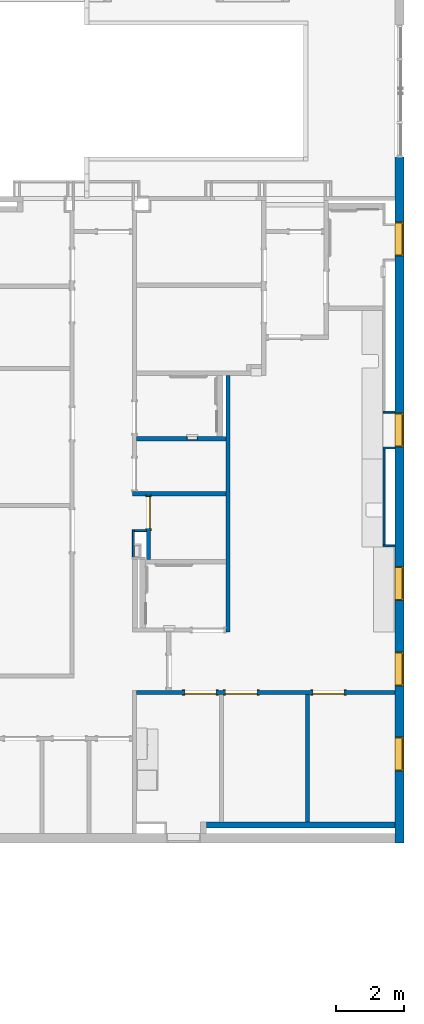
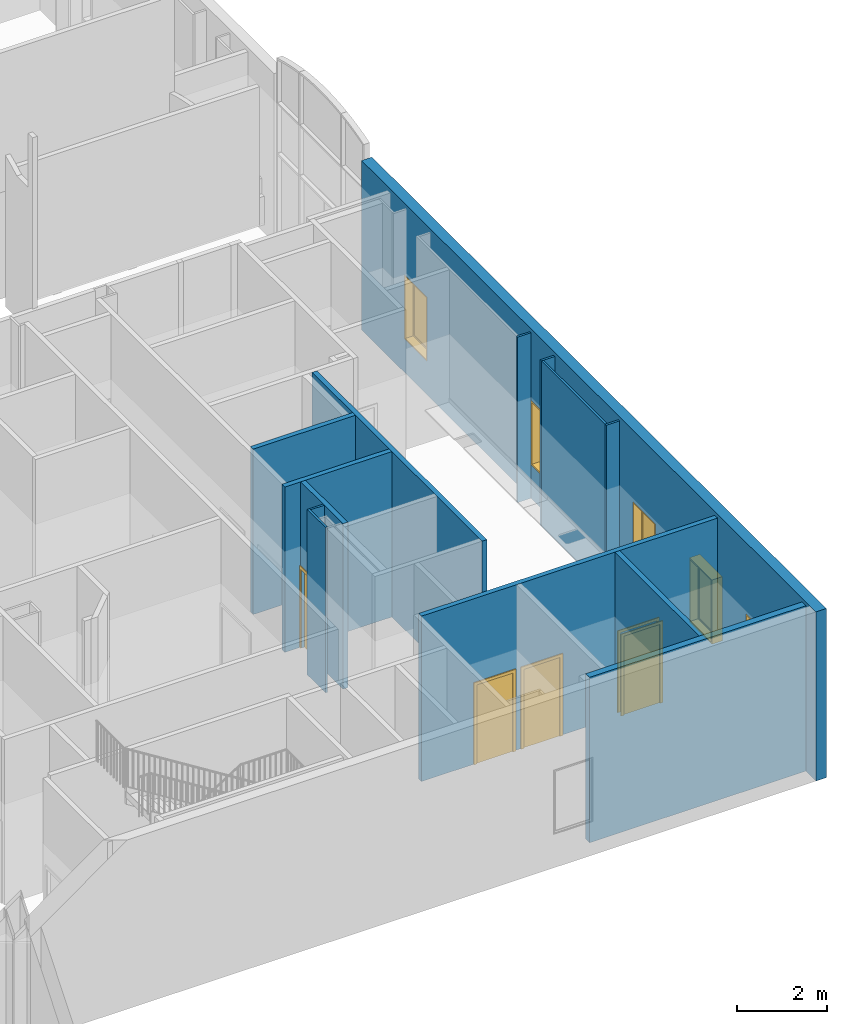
# One storey, part 25 of 87: 14 walls, 5 windows, 4 doors, 10 openings.
"""IFC2X3 building model written with IfcOpenShell, lengths in metres."""

from ifc_helpers import new_model, entity, si_unit, converted_unit, frame, frame_2d, origin, origin_2d_with_axis, place, context, project, spatial, polyline, rectangle, outline, extrude, source, transform, mapped, material, layer, layer_set, layer_usage, type_object, type_shapes, element, fill, save


model = new_model("IFC2X3")

# Units and contexts
model_context = context("Model", 3, precision=1e-09, world=origin())
plan_context = context("Plan", 3, precision=1e-09, world=origin())
ifc_project = project(units=[si_unit("LENGTHUNIT", "METRE"), si_unit("AREAUNIT", "SQUARE_METRE"), si_unit("VOLUMEUNIT", "CUBIC_METRE"), converted_unit("PLANEANGLEUNIT", "DEGREE", entity("IfcRatioMeasure", 0.01745329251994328), si_unit("PLANEANGLEUNIT", "RADIAN"), dimensions=[0, 0, 0, 0, 0, 0, 0]), si_unit("TIMEUNIT", "SECOND")], contexts=[model_context, plan_context])

# Site, building, storey
site_placement = place(None, origin())
site = spatial("IfcSite", under=ifc_project, at=site_placement, Name="Default", CompositionType="ELEMENT")
building_placement = place(site_placement, origin())
building = spatial("IfcBuilding", under=site, at=building_placement, CompositionType="ELEMENT")
storey_placement = place(building_placement, origin())
storey = spatial("IfcBuildingStorey", under=building, at=storey_placement, Name="First Floor", CompositionType="ELEMENT", Elevation=-3.531500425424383e-13)

# Walls
ifc_material_1 = material(Name="Metal - Stud Layer")
ifc_layer_1 = layer(ifc_material_1, 0.038)
ifc_material_2 = material(Name="Plasterboard")
ifc_layer_2 = layer(ifc_material_2, 0.016)
ifc_layer_set_1 = layer_set([ifc_layer_1, ifc_layer_2], Name="Basic Wall:Interior - Furring (38 mm Stud)")
ifc_layer_usage_1 = layer_usage(ifc_layer_set_1, "AXIS2", "POSITIVE", -0.027)
wall_1_placement = place(storey_placement, frame((0.1129999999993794, 22.28699999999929, 0.0), z_axis=(0.0, 0.0, 1.0), x_axis=(-1.0, 0.0, 0.0)))
element("IfcWallStandardCase", 1, at=wall_1_placement, inside=storey, material=ifc_layer_usage_1, Name="Basic Wall:Interior - Furring (38 mm Stud)", ObjectType="Basic Wall:Interior - Furring (38 mm Stud)", context=model_context, shape_type="SweptSolid", body=[
    extrude(rectangle(XDim=0.3429999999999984, YDim=0.05399999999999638, at=frame_2d((0.1714999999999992, 0.0), x_axis=(-1.0, 0.0))), origin(), (0.0, 0.0, 1.0), 4.468000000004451),
])
ifc_layer_3 = layer(ifc_material_2, 0.016)
ifc_layer_4 = layer(ifc_material_1, 0.092)
ifc_layer_5 = layer(ifc_material_2, 0.016)
ifc_layer_set_2 = layer_set([ifc_layer_3, ifc_layer_4, ifc_layer_5], Name="Basic Wall:Interior - Partition (92mm Stud)")
ifc_layer_usage_2 = layer_usage(ifc_layer_set_2, "AXIS2", "NEGATIVE", 0.062)
wall_2_placement = place(storey_placement, frame((-4.781975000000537, 23.35999999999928, 0.0), z_axis=(0.0, 0.0, 1.0), x_axis=(0.0, -1.0, 0.0)))
element("IfcWallStandardCase", 2, at=wall_2_placement, inside=storey, material=ifc_layer_usage_2, Name="Basic Wall:Interior - Partition (92mm Stud)", ObjectType="Basic Wall:Interior - Partition (92mm Stud)", context=model_context, shape_type="SweptSolid", body=[
    extrude(rectangle(XDim=7.52000000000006, YDim=0.124, at=frame_2d((3.76000000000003, 0.0), x_axis=(-1.0, 0.0))), origin(), (0.0, 0.0, 1.0), 4.46800000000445),
])

# Wall, openings, doors
ifc_layer_usage_3 = layer_usage(ifc_layer_set_2, "AXIS2", "NEGATIVE", 0.062)
wall_3_placement = place(storey_placement, frame((-7.455975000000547, 14.06799999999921, 0.0)))
wall_3 = element("IfcWallStandardCase", 3, at=wall_3_placement, inside=storey, material=ifc_layer_usage_3, Name="Basic Wall:Interior - Partition (92mm Stud)", ObjectType="Basic Wall:Interior - Partition (92mm Stud)", context=model_context, shape_type="SweptSolid", body=[
    extrude(rectangle(XDim=7.568974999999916, YDim=0.1240000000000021, at=frame_2d((3.784487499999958, 0.0), x_axis=(-1.0, 0.0))), origin(), (0.0, 0.0, 1.0), 4.468000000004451),
])
opening_1_placement = place(wall_3_placement, frame((6.081000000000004, 0.06199999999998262, 0.0)))
opening_1 = element("IfcOpeningElement", 4, at=opening_1_placement, cuts=wall_3, Name="M_Single-Flush:0915 x 2134mm:0915 x 2134mm:1", ObjectType="Opening", context=model_context, shape_type="SweptSolid", body=[
    extrude(rectangle(XDim=0.9149999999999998, YDim=2.134, at=frame_2d((1.067, 0.4575), x_axis=(0.0, 1.0))), frame((0.0, 0.0, 0.0), z_axis=(0.0, -1.0, 0.0), x_axis=(0.0, 0.0, 1.0)), (0.0, 0.0, 1.0), 0.124),
])
opening_2_placement = place(wall_3_placement, frame((3.525000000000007, 0.06199999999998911, 0.0)))
opening_2 = element("IfcOpeningElement", 5, at=opening_2_placement, cuts=wall_3, Name="M_Single-Flush:0915 x 2134mm:0915 x 2134mm:1", ObjectType="Opening", context=model_context, shape_type="SweptSolid", body=[
    extrude(rectangle(XDim=0.9149999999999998, YDim=2.134, at=frame_2d((1.067, 0.4574999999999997), x_axis=(0.0, 1.0))), frame((0.0, 0.0, 0.0), z_axis=(0.0, -1.0, 0.0), x_axis=(0.0, 0.0, 1.0)), (0.0, 0.0, 1.0), 0.124),
])
opening_3_placement = place(wall_3_placement, frame((2.325999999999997, 0.06199999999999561, 0.0)))
opening_3 = element("IfcOpeningElement", 6, at=opening_3_placement, cuts=wall_3, Name="M_Single-Flush:0915 x 2134mm:0915 x 2134mm:1", ObjectType="Opening", context=model_context, shape_type="SweptSolid", body=[
    extrude(rectangle(XDim=0.9150000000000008, YDim=2.134, at=frame_2d((1.067, 0.4575000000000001), x_axis=(0.0, -1.0))), frame((0.0, 0.0, 0.0), z_axis=(0.0, -1.0, 0.0), x_axis=(0.0, 0.0, 1.0)), (0.0, 0.0, 1.0), 0.124),
])
door_style_1 = type_object("IfcDoorStyle", Name="0915 x 2134mm", ConstructionType="NOTDEFINED", OperationType="SINGLE_SWING_RIGHT", ParameterTakesPrecedence=False, Sizeable=False)
shared_shape_1 = source(origin(), model_context, "Body", "SweptSolid", [
    extrude(outline(polyline([(-0.5335, -1.123999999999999), (0.5334999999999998, -1.123999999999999), (0.5334999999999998, 1.086), (0.4574999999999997, 1.086), (0.4574999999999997, -1.048000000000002), (-0.4574999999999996, -1.048000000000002), (-0.4574999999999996, 1.086), (-0.5335, 1.086), (-0.5335, -1.123999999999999)])), frame((0.4575000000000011, 0.1239999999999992, 1.086), z_axis=(0.0, 1.0, 0.0), x_axis=(1.0, 0.0, 0.0)), (0.0, 0.0, 1.0), 0.02499999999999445),
    extrude(outline(polyline([(-1.123999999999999, -0.5334999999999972), (1.085999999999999, -0.5334999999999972), (1.085999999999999, -0.4575000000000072), (-1.048, -0.4575000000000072), (-1.048, 0.4575000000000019), (1.085999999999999, 0.4575000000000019), (1.085999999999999, 0.5335000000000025), (-1.123999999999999, 0.5335000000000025), (-1.123999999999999, -0.5334999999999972)])), frame((0.4575000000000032, -0.02500000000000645, 1.085999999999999), z_axis=(0.0, 1.0, 0.0), x_axis=(0.0, 0.0, -1.0)), (0.0, 0.0, 1.0), 0.02500000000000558),
    extrude(rectangle(XDim=0.051, YDim=0.9149999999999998, at=origin_2d_with_axis()), frame((0.4575000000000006, 0.09849999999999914, 0.0), z_axis=(0.0, 0.0, 1.0), x_axis=(0.0, 1.0, 0.0)), (0.0, 0.0, 1.0), 2.133999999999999),
])
type_shapes(door_style_1, [shared_shape_1])
door_1_placement = place(opening_1_placement, frame((0.0, 0.0, 0.0), z_axis=(0.0, 0.0, 1.0), x_axis=(-1.0, 0.0, 0.0)))
door_1 = element("IfcDoor", 7, at=door_1_placement, inside=storey, type_object=door_style_1, Name="M_Single-Flush:0915 x 2134mm:0915 x 2134mm", ObjectType="0915 x 2134mm", OverallHeight=2.134, OverallWidth=0.9149999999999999, context=model_context, shape_type="MappedRepresentation", body=[
    mapped(shared_shape_1, transform((0.0, 0.0, 0.0), scale=1.0)),
])
fill(opening_1, door_1)
door_2_placement = place(opening_2_placement, frame((0.0, 0.0, 0.0), z_axis=(0.0, 0.0, 1.0), x_axis=(-1.0, 0.0, 0.0)))
door_2 = element("IfcDoor", 8, at=door_2_placement, inside=storey, type_object=door_style_1, Name="M_Single-Flush:0915 x 2134mm:0915 x 2134mm", ObjectType="0915 x 2134mm", OverallHeight=2.134, OverallWidth=0.9149999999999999, context=model_context, shape_type="MappedRepresentation", body=[
    mapped(shared_shape_1, transform((0.0, 0.0, 0.0), scale=1.0)),
])
fill(opening_2, door_2)
door_style_2 = type_object("IfcDoorStyle", Name="0915 x 2134mm", ConstructionType="NOTDEFINED", OperationType="SINGLE_SWING_LEFT", ParameterTakesPrecedence=False, Sizeable=False)
shared_shape_2 = source(origin(), model_context, "Body", "SweptSolid", [
    extrude(outline(polyline([(-0.5335, -1.123999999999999), (0.5334999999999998, -1.123999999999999), (0.5334999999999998, 1.086), (0.4574999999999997, 1.086), (0.4574999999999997, -1.048000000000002), (-0.4574999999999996, -1.048000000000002), (-0.4574999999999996, 1.086), (-0.5335, 1.086), (-0.5335, -1.123999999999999)])), frame((0.4575000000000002, 0.1489999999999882, 1.086), z_axis=(0.0, -1.0, 0.0), x_axis=(-1.0, 0.0, 0.0)), (0.0, 0.0, 1.0), 0.02499999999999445),
    extrude(outline(polyline([(-1.123999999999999, -0.5334999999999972), (1.085999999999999, -0.5334999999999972), (1.085999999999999, -0.4575000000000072), (-1.048, -0.4575000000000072), (-1.048, 0.4575000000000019), (1.085999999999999, 0.4575000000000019), (1.085999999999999, 0.5335000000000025), (-1.123999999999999, 0.5335000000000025), (-1.123999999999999, -0.5334999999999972)])), frame((0.4574999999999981, 0.0, 1.085999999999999), z_axis=(0.0, -1.0, 0.0), x_axis=(0.0, 0.0, -1.0)), (0.0, 0.0, 1.0), 0.02500000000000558),
    extrude(rectangle(XDim=0.9149999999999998, YDim=0.051, at=origin_2d_with_axis()), frame((0.4575000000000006, 0.09849999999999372, 0.0)), (0.0, 0.0, 1.0), 2.133999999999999),
])
type_shapes(door_style_2, [shared_shape_2])
door_3_placement = place(opening_3_placement, frame((0.0, 0.0, 0.0), z_axis=(0.0, 0.0, 1.0), x_axis=(-1.0, 0.0, 0.0)))
door_3 = element("IfcDoor", 9, at=door_3_placement, inside=storey, type_object=door_style_2, Name="M_Single-Flush:0915 x 2134mm:0915 x 2134mm", ObjectType="0915 x 2134mm", OverallHeight=2.134, OverallWidth=0.9149999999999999, context=model_context, shape_type="MappedRepresentation", body=[
    mapped(shared_shape_2, transform((0.0, 0.0, 0.0), scale=1.0)),
])
fill(opening_3, door_3)

# Walls
ifc_layer_6 = layer(ifc_material_1, 0.152)
ifc_layer_7 = layer(ifc_material_2, 0.016)
ifc_layer_set_3 = layer_set([ifc_layer_6, ifc_layer_7], Name="Basic Wall:Interior - Furring (152 mm Stud)")
ifc_layer_usage_4 = layer_usage(ifc_layer_set_3, "AXIS2", "POSITIVE", -0.08399999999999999)
wall_4_placement = place(storey_placement, frame((-5.41530308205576, 10.18599999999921, 0.0)))
element("IfcWallStandardCase", 10, at=wall_4_placement, inside=storey, material=ifc_layer_usage_4, Name="Basic Wall:Interior - Furring (152 mm Stud)", ObjectType="Basic Wall:Interior - Furring (152 mm Stud)", context=model_context, shape_type="SweptSolid", body=[
    extrude(rectangle(XDim=5.528303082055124, YDim=0.1680000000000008, at=frame_2d((2.764151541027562, 0.0), x_axis=(-1.0, 0.0))), origin(), (0.0, 0.0, 1.0), 4.468000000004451),
])
ifc_layer_usage_5 = layer_usage(ifc_layer_set_2, "AXIS2", "NEGATIVE", 0.062)
wall_5_placement = place(storey_placement, frame((-2.45197500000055, 14.0059999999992, 0.0), z_axis=(0.0, 0.0, 1.0), x_axis=(0.0, -1.0, 0.0)))
element("IfcWallStandardCase", 11, at=wall_5_placement, inside=storey, material=ifc_layer_usage_5, Name="Basic Wall:Interior - Partition (92mm Stud)", ObjectType="Basic Wall:Interior - Partition (92mm Stud)", context=model_context, shape_type="SweptSolid", body=[
    extrude(rectangle(XDim=3.735999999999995, YDim=0.124, at=frame_2d((1.867999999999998, 0.0), x_axis=(-1.0, 0.0))), origin(), (0.0, 0.0, 1.0), 4.46800000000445),
])
ifc_layer_usage_6 = layer_usage(ifc_layer_set_1, "AXIS2", "POSITIVE", -0.027)
wall_6_placement = place(storey_placement, frame((-7.55297500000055, 18.0299999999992, 0.0), z_axis=(0.0, 0.0, 1.0), x_axis=(0.0, 1.0, 0.0)))
element("IfcWallStandardCase", 12, at=wall_6_placement, inside=storey, material=ifc_layer_usage_6, Name="Basic Wall:Interior - Furring (38 mm Stud)", ObjectType="Basic Wall:Interior - Furring (38 mm Stud)", context=model_context, shape_type="SweptSolid", body=[
    extrude(rectangle(XDim=0.8100000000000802, YDim=0.05400000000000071, at=frame_2d((0.4050000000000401, 0.0), x_axis=(-1.0, 0.0))), origin(), (0.0, 0.0, 1.0), 4.46800000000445),
])
ifc_layer_usage_7 = layer_usage(ifc_layer_set_1, "AXIS2", "POSITIVE", -0.027)
wall_7_placement = place(storey_placement, frame((-7.525975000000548, 18.81299999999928, 0.0)))
element("IfcWallStandardCase", 13, at=wall_7_placement, inside=storey, material=ifc_layer_usage_7, Name="Basic Wall:Interior - Furring (38 mm Stud)", ObjectType="Basic Wall:Interior - Furring (38 mm Stud)", context=model_context, shape_type="SweptSolid", body=[
    extrude(rectangle(XDim=0.3519749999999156, YDim=0.05400000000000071, at=frame_2d((0.1759874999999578, 0.0), x_axis=(-1.0, 0.0))), origin(), (0.0, 0.0, 1.0), 4.46800000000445),
])

# Wall, opening, door
ifc_layer_usage_8 = layer_usage(ifc_layer_set_2, "AXIS2", "NEGATIVE", 0.062)
wall_8_placement = place(storey_placement, frame((-7.112000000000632, 19.82999999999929, 0.0), z_axis=(0.0, 0.0, 1.0), x_axis=(0.0, -1.0, 0.0)))
wall_8 = element("IfcWallStandardCase", 14, at=wall_8_placement, inside=storey, material=ifc_layer_usage_8, Name="Basic Wall:Interior - Partition (92mm Stud)", ObjectType="Basic Wall:Interior - Partition (92mm Stud)", context=model_context, shape_type="SweptSolid", body=[
    extrude(rectangle(XDim=1.870000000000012, YDim=0.124, at=frame_2d((0.9350000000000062, 0.0), x_axis=(-1.0, 0.0))), origin(), (0.0, 0.0, 1.0), 4.46800000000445),
])
opening_4_placement = place(wall_8_placement, frame((0.03750000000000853, -0.06200000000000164, 0.0)))
opening_4 = element("IfcOpeningElement", 15, at=opening_4_placement, cuts=wall_8, Name="M_Single-Flush:0915 x 2134mm:0915 x 2134mm:1", ObjectType="Opening", context=model_context, shape_type="SweptSolid", body=[
    extrude(rectangle(XDim=0.9149999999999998, YDim=2.134, at=frame_2d((1.067, 0.4575000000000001), x_axis=(0.0, -1.0))), frame((0.0, 0.0, 0.0), z_axis=(0.0, 1.0, 0.0), x_axis=(0.0, 0.0, 1.0)), (0.0, 0.0, 1.0), 0.124),
])
door_4_placement = place(opening_4_placement, origin())
door_4 = element("IfcDoor", 16, at=door_4_placement, inside=storey, type_object=door_style_2, Name="M_Single-Flush:0915 x 2134mm:0915 x 2134mm", ObjectType="0915 x 2134mm", OverallHeight=2.134, OverallWidth=0.9149999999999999, context=model_context, shape_type="MappedRepresentation", body=[
    mapped(shared_shape_2, transform((0.0, 0.0, 0.0), scale=1.0)),
])
fill(opening_4, door_4)

# Wall
ifc_layer_usage_9 = layer_usage(ifc_layer_set_2, "AXIS2", "NEGATIVE", 0.062)
wall_9_placement = place(storey_placement, frame((-4.843975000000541, 19.89199999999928, 0.0), z_axis=(0.0, 0.0, 1.0), x_axis=(-1.0, 0.0, 0.0)))
element("IfcWallStandardCase", 17, at=wall_9_placement, inside=storey, material=ifc_layer_usage_9, Name="Basic Wall:Interior - Partition (92mm Stud)", ObjectType="Basic Wall:Interior - Partition (92mm Stud)", context=model_context, shape_type="SweptSolid", body=[
    extrude(rectangle(XDim=2.736000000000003, YDim=0.1239999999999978, at=frame_2d((1.368000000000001, 0.0), x_axis=(-1.0, 0.0))), origin(), (0.0, 0.0, 1.0), 4.46800000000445),
])

# Wall, opening
ifc_layer_usage_10 = layer_usage(ifc_layer_set_2, "AXIS2", "NEGATIVE", 0.062)
wall_10_placement = place(storey_placement, frame((-7.455975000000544, 21.50799999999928, 0.0)))
wall_10 = element("IfcWallStandardCase", 18, at=wall_10_placement, inside=storey, material=ifc_layer_usage_10, Name="Basic Wall:Interior - Partition (92mm Stud)", ObjectType="Basic Wall:Interior - Partition (92mm Stud)", context=model_context, shape_type="SweptSolid", body=[
    extrude(rectangle(XDim=2.612000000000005, YDim=0.1239999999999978, at=frame_2d((1.306000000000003, 0.0), x_axis=(-1.0, 0.0))), origin(), (0.0, 0.0, 1.0), 4.46800000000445),
])
opening_5_placement = place(wall_10_placement, origin())
element("IfcOpeningElement", 19, at=opening_5_placement, cuts=wall_10, ObjectType="Opening", context=model_context, shape_type="SweptSolid", body=[
    extrude(rectangle(XDim=1.362075, YDim=0.2984500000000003, at=frame_2d((0.0, 0.0), x_axis=(0.0, 1.0))), frame((1.630900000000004, -0.02690000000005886, 1.041399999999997), z_axis=(0.0, 1.0, 0.0), x_axis=(1.0, 0.0, 0.0)), (0.0, 0.0, 1.0), 0.1524000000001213),
])

# Walls
ifc_layer_usage_11 = layer_usage(ifc_layer_set_1, "AXIS2", "POSITIVE", -0.027)
wall_11_placement = place(storey_placement, frame((0.1129999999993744, 18.36499999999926, 0.0), z_axis=(0.0, 0.0, 1.0), x_axis=(-1.0, 0.0, 0.0)))
element("IfcWallStandardCase", 20, at=wall_11_placement, inside=storey, material=ifc_layer_usage_11, Name="Basic Wall:Interior - Furring (38 mm Stud)", ObjectType="Basic Wall:Interior - Furring (38 mm Stud)", context=model_context, shape_type="SweptSolid", body=[
    extrude(rectangle(XDim=0.3429999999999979, YDim=0.05400000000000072, at=frame_2d((0.171499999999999, 0.0), x_axis=(-1.0, 0.0))), origin(), (0.0, 0.0, 1.0), 4.468000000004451),
])
ifc_layer_usage_12 = layer_usage(ifc_layer_set_1, "AXIS2", "POSITIVE", -0.027)
wall_12_placement = place(storey_placement, frame((-0.2030000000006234, 18.39199999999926, 0.0), z_axis=(0.0, 0.0, 1.0), x_axis=(0.0, 1.0, 0.0)))
element("IfcWallStandardCase", 21, at=wall_12_placement, inside=storey, material=ifc_layer_usage_12, Name="Basic Wall:Interior - Furring (38 mm Stud)", ObjectType="Basic Wall:Interior - Furring (38 mm Stud)", context=model_context, shape_type="SweptSolid", body=[
    extrude(rectangle(XDim=2.814000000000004, YDim=0.05399999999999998, at=frame_2d((1.407000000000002, 0.0), x_axis=(-1.0, 0.0))), origin(), (0.0, 0.0, 1.0), 4.46800000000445),
])
ifc_layer_usage_13 = layer_usage(ifc_layer_set_1, "AXIS2", "POSITIVE", -0.027)
wall_13_placement = place(storey_placement, frame((-0.2300000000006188, 21.23299999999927, 0.0)))
element("IfcWallStandardCase", 22, at=wall_13_placement, inside=storey, material=ifc_layer_usage_13, Name="Basic Wall:Interior - Furring (38 mm Stud)", ObjectType="Basic Wall:Interior - Furring (38 mm Stud)", context=model_context, shape_type="SweptSolid", body=[
    extrude(rectangle(XDim=0.3429999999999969, YDim=0.05399999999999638, at=frame_2d((0.1714999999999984, 0.0), x_axis=(-1.0, 0.0))), origin(), (0.0, 0.0, 1.0), 4.46800000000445),
])

# Wall, openings, windows
ifc_material_3 = material(Name="Insulation - Insulated Panel")
ifc_layer_8 = layer(ifc_material_3, 0.042)
ifc_material_4 = material(Name="Metal - Firring")
ifc_layer_9 = layer(ifc_material_4, 0.038)
ifc_material_5 = material(Name="Wood - Sheathing - plywood")
ifc_layer_10 = layer(ifc_material_5, 0.019)
ifc_layer_11 = layer(ifc_material_1, 0.152)
ifc_layer_12 = layer(ifc_material_2, 0.016)
ifc_layer_set_4 = layer_set([ifc_layer_8, ifc_layer_9, ifc_layer_10, ifc_layer_11, ifc_layer_12], Name="Basic Wall:Exterior - Insul Panel on Mtl. Stud")
ifc_layer_usage_14 = layer_usage(ifc_layer_set_4, "AXIS2", "NEGATIVE", 0.1335)
wall_14_placement = place(storey_placement, frame((0.246499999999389, 29.75999999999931, 0.0), z_axis=(0.0, 0.0, 1.0), x_axis=(0.0, -1.0, 0.0)))
wall_14 = element("IfcWallStandardCase", 23, at=wall_14_placement, inside=storey, material=ifc_layer_usage_14, Name="Basic Wall:Exterior - Insul Panel on Mtl. Stud", ObjectType="Basic Wall:Exterior - Insul Panel on Mtl. Stud", context=model_context, shape_type="SweptSolid", body=[
    extrude(rectangle(XDim=20.10000000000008, YDim=0.267, at=frame_2d((10.05000000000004, 0.0), x_axis=(-1.0, 0.0))), origin(), (0.0, 0.0, 1.0), 4.570000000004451),
])
opening_6_placement = place(wall_14_placement, frame((1.900938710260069, -0.1335000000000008, 0.9049999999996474)))
opening_6 = element("IfcOpeningElement", 24, at=opening_6_placement, cuts=wall_14, Name=":1", ObjectType="Opening", context=model_context, shape_type="SweptSolid", body=[
    extrude(rectangle(XDim=1.734999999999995, YDim=0.9999999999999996, at=frame_2d((0.8674999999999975, 0.4999999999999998), x_axis=(1.0, 0.0))), frame((0.0, 0.0, 0.0), z_axis=(0.0, 1.0, 0.0), x_axis=(0.0, 0.0, 1.0)), (0.0, 0.0, 1.0), 0.267),
])
opening_7_placement = place(wall_14_placement, frame((7.500000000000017, -0.133500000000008, 0.9049999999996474)))
opening_7 = element("IfcOpeningElement", 25, at=opening_7_placement, cuts=wall_14, Name=":1", ObjectType="Opening", context=model_context, shape_type="SweptSolid", body=[
    extrude(rectangle(XDim=1.734999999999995, YDim=0.9999999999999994, at=frame_2d((0.8674999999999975, 0.5000000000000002), x_axis=(1.0, 0.0))), frame((0.0, 0.0, 0.0), z_axis=(0.0, 1.0, 0.0), x_axis=(0.0, 0.0, 1.0)), (0.0, 0.0, 1.0), 0.267),
])
opening_8_placement = place(wall_14_placement, frame((12.0, -0.1335000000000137, 0.9049999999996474)))
opening_8 = element("IfcOpeningElement", 26, at=opening_8_placement, cuts=wall_14, Name=":1", ObjectType="Opening", context=model_context, shape_type="SweptSolid", body=[
    extrude(rectangle(XDim=1.734999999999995, YDim=0.9999999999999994, at=frame_2d((0.8674999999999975, 0.5000000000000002), x_axis=(1.0, 0.0))), frame((0.0, 0.0, 0.0), z_axis=(0.0, 1.0, 0.0), x_axis=(0.0, 0.0, 1.0)), (0.0, 0.0, 1.0), 0.267),
])
opening_9_placement = place(wall_14_placement, frame((14.50000000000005, -0.1335000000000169, 0.9049999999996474)))
opening_9 = element("IfcOpeningElement", 27, at=opening_9_placement, cuts=wall_14, Name=":1", ObjectType="Opening", context=model_context, shape_type="SweptSolid", body=[
    extrude(rectangle(XDim=1.734999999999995, YDim=0.9999999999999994, at=frame_2d((0.8674999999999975, 0.5000000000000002), x_axis=(1.0, 0.0))), frame((0.0, 0.0, 0.0), z_axis=(0.0, 1.0, 0.0), x_axis=(0.0, 0.0, 1.0)), (0.0, 0.0, 1.0), 0.267),
])
opening_10_placement = place(wall_14_placement, frame((17.0, -0.1335000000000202, 0.9049999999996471)))
opening_10 = element("IfcOpeningElement", 28, at=opening_10_placement, cuts=wall_14, Name=":1", ObjectType="Opening", context=model_context, shape_type="SweptSolid", body=[
    extrude(rectangle(XDim=1.734999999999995, YDim=0.9999999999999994, at=frame_2d((0.8674999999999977, 0.5000000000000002), x_axis=(1.0, 0.0))), frame((0.0, 0.0, 0.0), z_axis=(0.0, 1.0, 0.0), x_axis=(0.0, 0.0, 1.0)), (0.0, 0.0, 1.0), 0.267),
])
window_style = type_object("IfcWindowStyle", Name="1735 x 1000mm", ConstructionType="NOTDEFINED", OperationType="NOTDEFINED", ParameterTakesPrecedence=False, Sizeable=False)
shared_shape_3 = source(origin(), model_context, "Body", "SweptSolid", [
    extrude(rectangle(XDim=0.012, YDim=0.873999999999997, at=origin_2d_with_axis()), frame((0.5000000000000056, 0.2259999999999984, 0.06299999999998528), z_axis=(0.0, 0.0, 1.0), x_axis=(0.0, -1.0, 0.0)), (0.0, 0.0, 1.0), 1.609000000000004),
    extrude(outline(polyline([(-0.4809999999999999, -0.8485000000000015), (0.4809999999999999, -0.8485000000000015), (0.4809999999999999, 0.8485000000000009), (-0.4809999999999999, 0.8485000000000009), (-0.4809999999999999, -0.8485000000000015)]), holes=[polyline([(-0.4369999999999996, -0.8045000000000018), (-0.4369999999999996, 0.8045000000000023), (0.4369999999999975, 0.8045000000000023), (0.4369999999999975, -0.8045000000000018), (-0.4369999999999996, -0.8045000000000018)])]), frame((0.5000000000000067, 0.203999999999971, 0.8674999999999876), z_axis=(0.0, 1.0, 0.0), x_axis=(1.0, 0.0, 0.0)), (0.0, 0.0, 1.0), 0.04400000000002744),
    extrude(outline(polyline([(-0.4999999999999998, -0.8674999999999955), (0.4999999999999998, -0.8674999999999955), (0.4999999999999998, 0.8674999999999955), (-0.4999999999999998, 0.8674999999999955), (-0.4999999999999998, -0.8674999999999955)]), holes=[polyline([(-0.4810000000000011, -0.8484999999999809), (-0.4810000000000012, 0.8485000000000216), (0.4809999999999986, 0.8485000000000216), (0.4809999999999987, -0.8484999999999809), (-0.4810000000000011, -0.8484999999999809)])]), frame((0.500000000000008, 0.203999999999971, 0.8675000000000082), z_axis=(0.0, 1.0, 0.0), x_axis=(1.0, 0.0, 0.0)), (0.0, 0.0, 1.0), 0.06300000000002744),
    extrude(outline(polyline([(-0.5000000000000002, -0.867499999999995), (0.5000000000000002, -0.867499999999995), (0.5000000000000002, 0.867499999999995), (-0.5000000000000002, 0.867499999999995), (-0.5000000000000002, -0.867499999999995)]), holes=[polyline([(-0.4679999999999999, -0.8354999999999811), (-0.4679999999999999, 0.8355000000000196), (0.4680000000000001, 0.8355000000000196), (0.4680000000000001, -0.8354999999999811), (-0.4679999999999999, -0.8354999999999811)])]), frame((0.5000000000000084, 0.0, 0.8675000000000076), z_axis=(0.0, 1.0, 0.0), x_axis=(1.0, 0.0, 0.0)), (0.0, 0.0, 1.0), 0.2039999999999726),
])
type_shapes(window_style, [shared_shape_3])
window_1_placement = place(opening_6_placement, origin())
window_1 = element("IfcWindow", 29, at=window_1_placement, inside=storey, type_object=window_style, Name="M_Fixed:1735 x 1000mm:1735 x 1000mm", ObjectType="1735 x 1000mm", OverallHeight=1.734999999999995, OverallWidth=0.9999999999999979, context=model_context, shape_type="MappedRepresentation", body=[
    mapped(shared_shape_3, transform((0.0, 0.0, 0.0), scale=1.0)),
])
fill(opening_6, window_1)
window_2_placement = place(opening_7_placement, origin())
window_2 = element("IfcWindow", 30, at=window_2_placement, inside=storey, type_object=window_style, Name="M_Fixed:1735 x 1000mm:1735 x 1000mm", ObjectType="1735 x 1000mm", OverallHeight=1.734999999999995, OverallWidth=0.9999999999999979, context=model_context, shape_type="MappedRepresentation", body=[
    mapped(shared_shape_3, transform((0.0, 0.0, 0.0), scale=1.0)),
])
fill(opening_7, window_2)
window_3_placement = place(opening_8_placement, origin())
window_3 = element("IfcWindow", 31, at=window_3_placement, inside=storey, type_object=window_style, Name="M_Fixed:1735 x 1000mm:1735 x 1000mm", ObjectType="1735 x 1000mm", OverallHeight=1.734999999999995, OverallWidth=1.0, context=model_context, shape_type="MappedRepresentation", body=[
    mapped(shared_shape_3, transform((0.0, 0.0, 0.0), scale=1.0)),
])
fill(opening_8, window_3)
window_4_placement = place(opening_9_placement, origin())
window_4 = element("IfcWindow", 32, at=window_4_placement, inside=storey, type_object=window_style, Name="M_Fixed:1735 x 1000mm:1735 x 1000mm", ObjectType="1735 x 1000mm", OverallHeight=1.734999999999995, OverallWidth=1.0, context=model_context, shape_type="MappedRepresentation", body=[
    mapped(shared_shape_3, transform((0.0, 0.0, 0.0), scale=1.0)),
])
fill(opening_9, window_4)
window_5_placement = place(opening_10_placement, origin())
window_5 = element("IfcWindow", 33, at=window_5_placement, inside=storey, type_object=window_style, Name="M_Fixed:1735 x 1000mm:1735 x 1000mm", ObjectType="1735 x 1000mm", OverallHeight=1.734999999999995, OverallWidth=1.0, context=model_context, shape_type="MappedRepresentation", body=[
    mapped(shared_shape_3, transform((0.0, 0.0, 0.0), scale=1.0)),
])
fill(opening_10, window_5)

save(model, "model.ifc")
